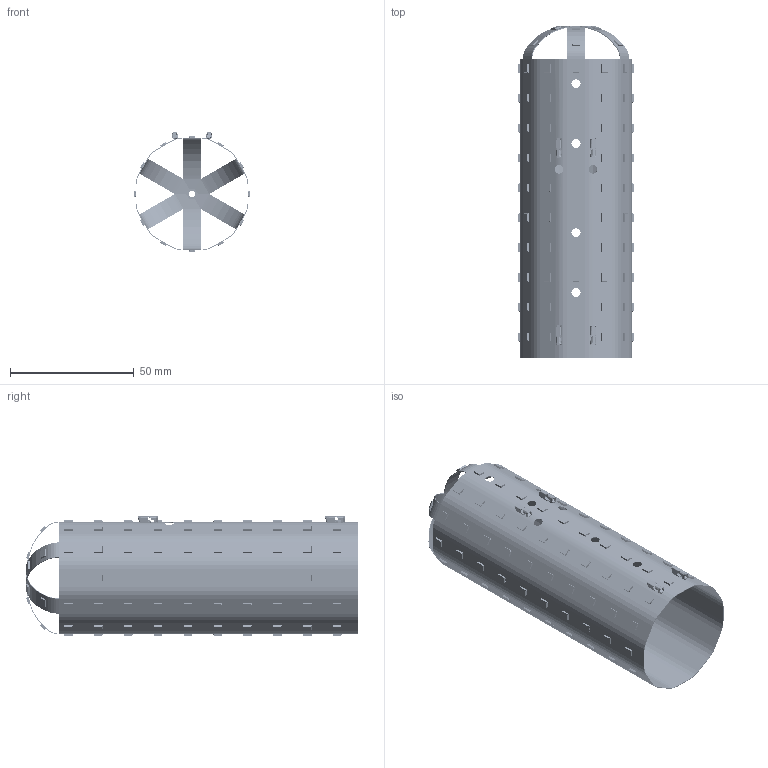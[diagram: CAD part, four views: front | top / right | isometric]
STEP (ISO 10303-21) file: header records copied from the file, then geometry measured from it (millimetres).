
FILE_DESCRIPTION (( 'STEP AP214' ), '1' );
FILE_NAME ('LUXTECH Assembled LUXsphere 3D Model.STEP', '2025-09-26T14:32:20', ( '' ), ( '' ), 'SwSTEP 2.0', 'SolidWorks 2023', '' );
FILE_SCHEMA (( 'AUTOMOTIVE_DESIGN' ));
Length unit declared in the file: inch
Products named in the file (4): Cree J Series 2835_180; LUXTECH Assembled LUXsphere 3D Model; BJB 46.110.1001; Bent LUXsphere
Assembly tree (137 placements, depth 2):
  LUXTECH Assembled LUXsphere 3D Model
    Bent LUXsphere
    Cree J Series 2835_180  x132
    BJB 46.110.1001  x4
Bounding box: 46.97 x 134.1 x 48.6 mm (x, y, z)
Volume: 6476.9 mm3; surface area: 48576.6 mm2
Topology: 1585 solids, 1625 shells, 55313 faces, 156162 edges, 104060 vertices
Faces by surface type: cylinder 31238, plane 23887, bspline 188
Entity records: 44615 total; most frequent: CARTESIAN_POINT 13164, ORIENTED_EDGE 4705, DIRECTION 4588, EDGE_CURVE 2374, AXIS2_PLACEMENT_3D 1600, VERTEX_POINT 1557, VECTOR 1388, LINE 1388
